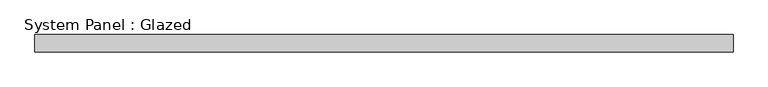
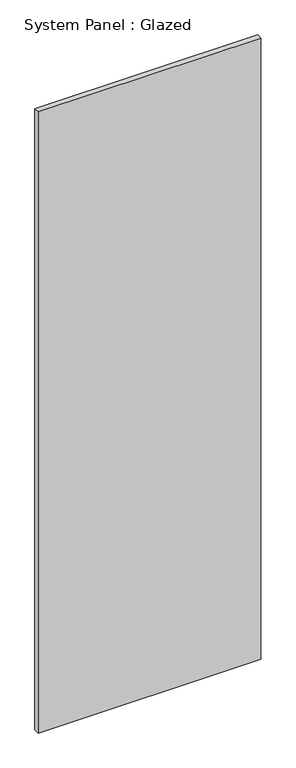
"""IFC4 building model written with IfcOpenShell, lengths in millimetres: plate geometry, System Panel : Glazed."""

from ifc_helpers import new_model, si_unit, origin, origin_with_axes, place, context, project, spatial, polyline, outline, extrude, source, transform, mapped, element, save


def system_panel_glazed_bcc47ddd(model_context):
    return source(origin(), model_context, "Body", "SweptSolid", [
        extrude(outline(polyline([(517.1220944, -44.45), (-517.1220944, -44.45), (-517.1220944, -19.05), (517.1220944, -19.05), (517.1220944, -44.45)])), origin_with_axes(), (0.0, 0.0, 1.0), 3048.0),
    ])


if __name__ == "__main__":
    model = new_model("IFC4")
    model_context = context("Model", 3, world=origin())
    ifc_project = project(units=[si_unit("LENGTHUNIT", "METRE", prefix="MILLI")], contexts=[model_context])
    site = spatial("IfcSite", under=ifc_project)
    building = spatial("IfcBuilding", under=site)
    placement = place(None, origin())
    system_panel_glazed_shape = system_panel_glazed_bcc47ddd(model_context)
    element("IfcPlate", 1, ObjectType="System Panel : Glazed", at=placement, inside=building, context=model_context, shape_type="MappedRepresentation", body=[
        mapped(system_panel_glazed_shape, transform((0.0, 0.0, 0.0), x_axis=(1.0, 0.0, 0.0), y_axis=(0.0, 1.0, 0.0), z_axis=(0.0, 0.0, 1.0))),
    ])
    save(model, "model.ifc")
